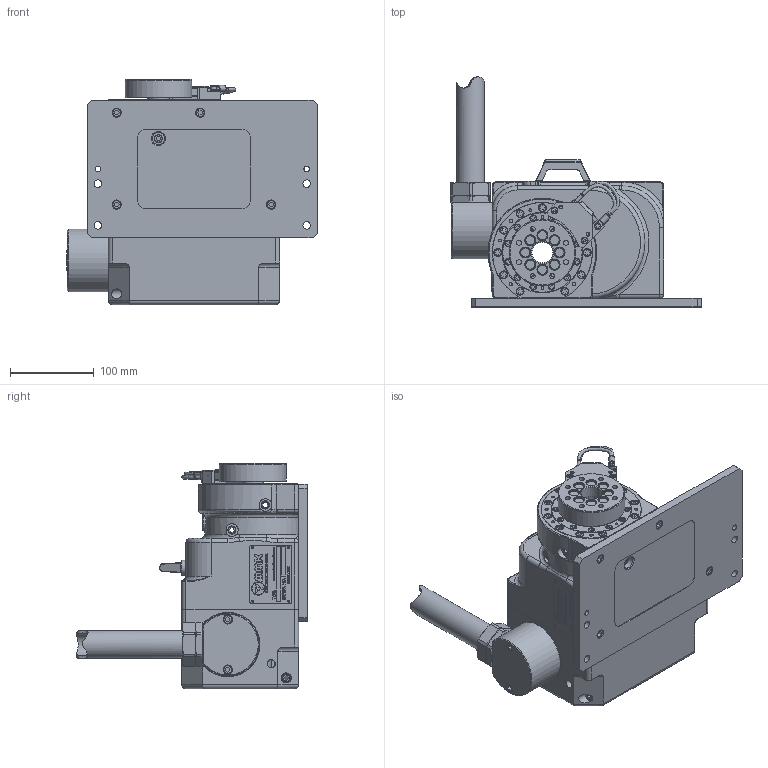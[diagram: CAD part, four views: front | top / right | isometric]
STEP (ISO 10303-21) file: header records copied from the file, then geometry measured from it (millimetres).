
FILE_DESCRIPTION (( 'STEP AP203' ), '1' );
FILE_NAME ('1505969　MTW86-09.STEP', '2021-03-18T01:49:56', ( '' ), ( '' ), 'SwSTEP 2.0', 'SolidWorks 2019', '' );
FILE_SCHEMA (( 'CONFIG_CONTROL_DESIGN' ));
Length unit declared in the file: millimetre
Products named in the file (1): 1505969　MTW86-09
Bounding box: 299.65 x 275.52 x 270 mm (x, y, z)
Surface area: 414904.2 mm2 (no closed solid volume)
Topology: 0 solids, 121 shells, 948 faces, 4359 edges, 3485 vertices
Faces by surface type: plane 588, cylinder 219, cone 67, bspline 43, torus 27, sphere 4
Full cylindrical faces by diameter (mm): 1.5 x2, 1.6 x4, 2.5 x4, 3.3 x4, 4 x7, 4.2 x3, 4.325 x2, 4.5 x3, 6 x8, 6.8 x2, 7.1 x1, 7.22 x1, 8 x18, 9 x6, 9.5 x15, 11 x10, 12 x9, 15 x4, 16 x1, 19.5 x1, 22 x1, 25 x1, 25.5 x1, 26.4 x1, 33.4 x1, 44 x2, 72 x1, 80 x1, 95 x1, 95.5 x1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
Entity records: 53860 total; most frequent: CARTESIAN_POINT 22330, ORIENTED_EDGE 5702, DIRECTION 5431, EDGE_CURVE 4110, VERTEX_POINT 3442, LINE 2381, VECTOR 2381, AXIS2_PLACEMENT_3D 1525
